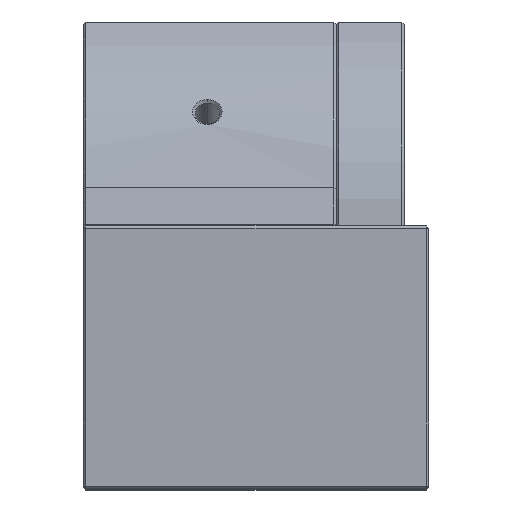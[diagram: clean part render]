
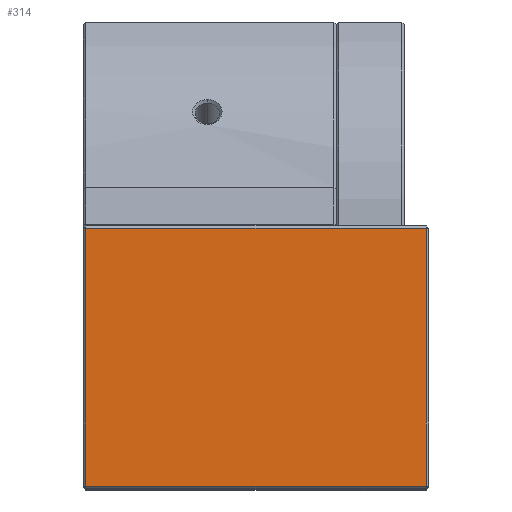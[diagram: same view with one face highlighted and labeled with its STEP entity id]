
A CAD part, top view. The second image highlights one B-rep face of the part: STEP entity #314.
In plain terms, the highlighted planar face has unit normal (0, 0, 1).
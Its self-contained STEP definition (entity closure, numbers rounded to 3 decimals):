
#279 = ORIENTED_EDGE ( 'NONE', *, *, #280, .T. ) ;
#280 = EDGE_CURVE ( 'NONE', #294, #3425, #4279, .T. ) ;
#281 = ORIENTED_EDGE ( 'NONE', *, *, #288, .T. ) ;
#284 = EDGE_LOOP ( 'NONE', ( #281, #279, #333, #327 ) ) ;
#288 = EDGE_CURVE ( 'NONE', #305, #294, #4275, .T. ) ;
#294 = VERTEX_POINT ( 'NONE', #4271 ) ;
#305 = VERTEX_POINT ( 'NONE', #4270 ) ;
#314 = ADVANCED_FACE ( 'NONE', ( #4255 ), #4254, .T. ) ;
#326 = EDGE_CURVE ( 'NONE', #330, #305, #4301, .T. ) ;
#327 = ORIENTED_EDGE ( 'NONE', *, *, #326, .T. ) ;
#330 = VERTEX_POINT ( 'NONE', #4330 ) ;
#332 = EDGE_CURVE ( 'NONE', #3425, #330, #4328, .T. ) ;
#333 = ORIENTED_EDGE ( 'NONE', *, *, #332, .T. ) ;
#3425 = VERTEX_POINT ( 'NONE', #9794 ) ;
#4250 = DIRECTION ( 'NONE',  ( 1., 0., 0. ) ) ;
#4251 = DIRECTION ( 'NONE',  ( 0., 0., 1. ) ) ;
#4252 = AXIS2_PLACEMENT_3D ( 'NONE', #4253, #4251, #4250 ) ;
#4253 = CARTESIAN_POINT ( 'NONE',  ( -67., 0., 80. ) ) ;
#4254 = PLANE ( 'NONE',  #4252 ) ;
#4255 = FACE_OUTER_BOUND ( 'NONE', #284, .T. ) ;
#4270 = CARTESIAN_POINT ( 'NONE',  ( -66.5, 1.5, 80. ) ) ;
#4271 = CARTESIAN_POINT ( 'NONE',  ( -66.5, -51.5, 80. ) ) ;
#4272 = DIRECTION ( 'NONE',  ( 0., -1., 0. ) ) ;
#4273 = VECTOR ( 'NONE', #4272, 1000. ) ;
#4274 = CARTESIAN_POINT ( 'NONE',  ( -66.5, -52., 80. ) ) ;
#4275 = LINE ( 'NONE', #4274, #4273 ) ;
#4276 = DIRECTION ( 'NONE',  ( 1., 0., 0. ) ) ;
#4277 = VECTOR ( 'NONE', #4276, 1000. ) ;
#4278 = CARTESIAN_POINT ( 'NONE',  ( -67., -51.5, 80. ) ) ;
#4279 = LINE ( 'NONE', #4278, #4277 ) ;
#4301 = LINE ( 'NONE', #4339, #4338 ) ;
#4325 = DIRECTION ( 'NONE',  ( 0., 1., 0. ) ) ;
#4326 = VECTOR ( 'NONE', #4325, 1000. ) ;
#4327 = CARTESIAN_POINT ( 'NONE',  ( 3.5, 0., 80. ) ) ;
#4328 = LINE ( 'NONE', #4327, #4326 ) ;
#4330 = CARTESIAN_POINT ( 'NONE',  ( 3.5, 1.5, 80. ) ) ;
#4337 = DIRECTION ( 'NONE',  ( -1., 0., 0. ) ) ;
#4338 = VECTOR ( 'NONE', #4337, 1000. ) ;
#4339 = CARTESIAN_POINT ( 'NONE',  ( -67., 1.5, 80. ) ) ;
#9794 = CARTESIAN_POINT ( 'NONE',  ( 3.5, -51.5, 80. ) ) ;
